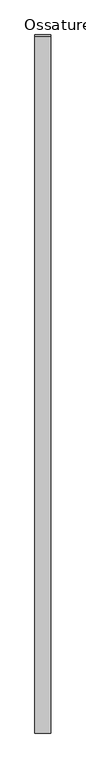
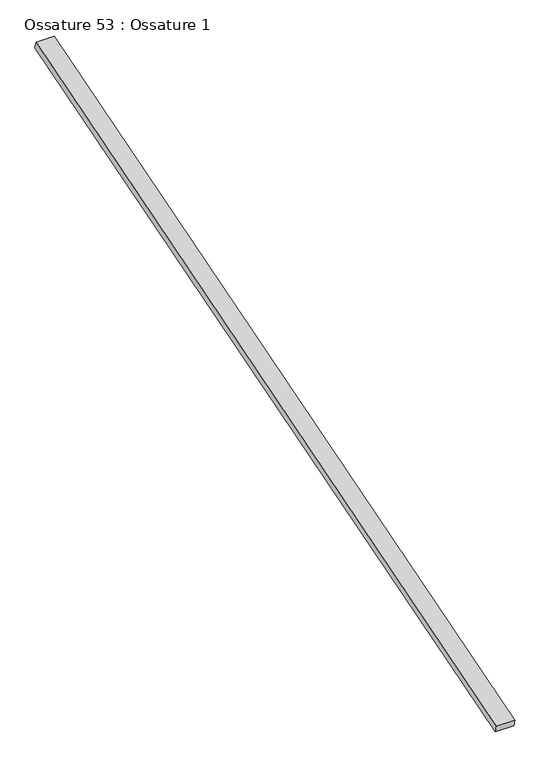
"""IFC4 building model written with IfcOpenShell, lengths in millimetres: beam geometry, Ossature 53 : Ossature 1."""

import ifcopenshell
import ifcopenshell.guid

model = None  # the IFC model being written
_history = None  # IfcOwnerHistory: only IFC2X3 demands one
_inside = {}  # id of a spatial element -> (the spatial element, [elements in it])
_under = {}  # id of a project, library or spatial element -> (it, [spatial elements below it])
_declared = {}  # id of a project -> (the project, [libraries it declares])
_typed = {}  # id of a type object -> (the type object, [elements of that type])
_made_of = {}  # id of a material, layer set ... -> (it, [elements and type objects made of it])


def new_model(schema):
    """Start an empty IFC model of exactly this schema.

    Asked for "IFC4X3", IfcOpenShell would pick the latest addendum, in which some entities
    have other attributes; the version numbers below select the first issue.
    IFC2X3 requires an IfcOwnerHistory on every rooted entity: one is made here for all.
    """
    global model, _history
    if schema == "IFC4X3":
        model = ifcopenshell.file(schema_version=(4, 3, 0, 0))
    else:
        model = ifcopenshell.file(schema=schema)
    _inside.clear()
    _under.clear()
    _declared.clear()
    _typed.clear()
    _made_of.clear()
    _history = None
    if model.schema == "IFC2X3":
        org = make("IfcOrganization", Name="unknown")
        user = make(
            "IfcPersonAndOrganization",
            ThePerson=make("IfcPerson", FamilyName="unknown"),
            TheOrganization=org,
        )
        app = make(
            "IfcApplication",
            ApplicationDeveloper=org,
            Version="unknown",
            ApplicationFullName="unknown",
            ApplicationIdentifier="unknown",
        )
        _history = make(
            "IfcOwnerHistory",
            OwningUser=user,
            OwningApplication=app,
            ChangeAction="ADDED",
            CreationDate=0,
        )
    return model


def make(cls, **values):
    """One entity of the class cls with the attributes given. An attribute that is None is left unset."""
    return model.create_entity(
        cls, **{name: value for name, value in values.items() if value is not None}
    )


def rooted(cls, **values):
    """An entity with a GlobalId (a new one), such as an element, a storey or a relation."""
    return make(cls, GlobalId=ifcopenshell.guid.new(), OwnerHistory=_history, **values)


def si_unit(unit_type, name, prefix=None):
    """IfcSIUnit, for example si_unit("LENGTHUNIT", "METRE", prefix="MILLI")."""
    return make("IfcSIUnit", UnitType=unit_type, Prefix=prefix, Name=name)


def assignment(units):
    """IfcUnitAssignment: the units of a project."""
    return None if units is None else make("IfcUnitAssignment", Units=units)


def point(xyz):
    """IfcCartesianPoint."""
    return None if xyz is None else make("IfcCartesianPoint", Coordinates=xyz)


def direction(xyz):
    """IfcDirection."""
    return None if xyz is None else make("IfcDirection", DirectionRatios=xyz)


def frame(location, z_axis=None, x_axis=None):
    """IfcAxis2Placement3D, a coordinate frame: its origin and axes. An axis left out is left unset."""
    return make(
        "IfcAxis2Placement3D",
        Location=point(location),
        Axis=direction(z_axis),
        RefDirection=direction(x_axis),
    )


def origin():
    """The frame at (0, 0, 0) with its axes left unset."""
    return frame((0.0, 0.0, 0.0))


def place(relative_to, where):
    """IfcLocalPlacement: puts the frame where relative to a parent placement (None: the world)."""
    return make(
        "IfcLocalPlacement", PlacementRelTo=relative_to, RelativePlacement=where
    )


def context(
    kind, dimensions, precision=None, world=None, true_north=None, identifier=None
):
    """IfcGeometricRepresentationContext, for example the 3D "Model" context."""
    return make(
        "IfcGeometricRepresentationContext",
        ContextIdentifier=identifier,
        ContextType=kind,
        CoordinateSpaceDimension=dimensions,
        Precision=precision,
        WorldCoordinateSystem=world,
        TrueNorth=true_north,
    )


def project(units=None, contexts=None):
    """IfcProject with its units and contexts."""
    return rooted(
        "IfcProject",
        Name="project",
        RepresentationContexts=contexts,
        UnitsInContext=assignment(units),
    )


def spatial(cls, under=None, at=None, **own):
    """A site, building, storey or space (cls), placed at a placement, below another one or the project."""
    s = rooted(cls, ObjectPlacement=at, **own)
    if under is not None:
        _under.setdefault(under.id(), (under, []))[1].append(s)
    return s


def polyline(points):
    """IfcPolyline through the points."""
    return make("IfcPolyline", Points=[point(p) for p in points])


def outline(outer, holes=None, kind="AREA"):
    """IfcArbitraryClosedProfileDef: a profile drawn as a closed curve; with holes, ...WithVoids."""
    if holes is None:
        return make("IfcArbitraryClosedProfileDef", ProfileType=kind, OuterCurve=outer)
    return make(
        "IfcArbitraryProfileDefWithVoids",
        ProfileType=kind,
        OuterCurve=outer,
        InnerCurves=holes,
    )


def extrude(swept, where, along, depth):
    """IfcExtrudedAreaSolid: the profile swept, set in the frame where, extruded along a direction by depth."""
    return make(
        "IfcExtrudedAreaSolid",
        SweptArea=swept,
        Position=where,
        ExtrudedDirection=direction(along),
        Depth=depth,
    )


def shape(context_of_items, identifier, shape_type, items):
    """IfcShapeRepresentation: the items that make up one representation, for example the "Body"."""
    return make(
        "IfcShapeRepresentation",
        ContextOfItems=context_of_items,
        RepresentationIdentifier=identifier,
        RepresentationType=shape_type,
        Items=items,
    )


def source(mapping_origin, context_of_items, identifier, shape_type, items):
    """IfcRepresentationMap: a shape defined once, which mapped items show again and again."""
    return make(
        "IfcRepresentationMap",
        MappingOrigin=mapping_origin,
        MappedRepresentation=shape(context_of_items, identifier, shape_type, items),
    )


def transform(
    local_origin,
    x_axis=None,
    y_axis=None,
    z_axis=None,
    scale=None,
    scale2=None,
    scale3=None,
    uniform=True,
):
    """IfcCartesianTransformationOperator3D, or its non-uniform kind. x_axis, y_axis, z_axis: its Axis1, 2, 3."""
    if uniform:
        return make(
            "IfcCartesianTransformationOperator3D",
            Axis1=direction(x_axis),
            Axis2=direction(y_axis),
            LocalOrigin=point(local_origin),
            Scale=scale,
            Axis3=direction(z_axis),
        )
    return make(
        "IfcCartesianTransformationOperator3DnonUniform",
        Axis1=direction(x_axis),
        Axis2=direction(y_axis),
        LocalOrigin=point(local_origin),
        Scale=scale,
        Axis3=direction(z_axis),
        Scale2=scale2,
        Scale3=scale3,
    )


def mapped(mapping_source, mapping_target):
    """IfcMappedItem: shows the shape of a source again, moved by a transform."""
    return make(
        "IfcMappedItem", MappingSource=mapping_source, MappingTarget=mapping_target
    )


def made_of(thing, what):
    """Note that an element or type object is made of a material, layer set ...; save() writes the relation."""
    if what is not None:
        _made_of.setdefault(what.id(), (what, []))[1].append(thing)
    return thing


def element(
    cls,
    number,
    at=None,
    inside=None,
    cuts=None,
    type_object=None,
    material=None,
    context=None,
    identifier="Body",
    shape_type=None,
    held_by="IfcProductDefinitionShape",
    body=None,
    shapes=None,
    **own,
):
    """One element of the class cls, such as IfcWall. Its Tag is "e" and its number.

    at: its placement. inside: the storey or other place that contains it. cuts: it is an
    opening in that element (IfcRelVoidsElement). A single representation is given by context,
    identifier, shape_type and body (its items); several are given by shapes. held_by: the class
    of the entity that holds the representations. save() writes the other relations.
    """
    e = rooted(cls, Tag="e%d" % number, ObjectPlacement=at, **own)
    if body is not None:
        shapes = [shape(context, identifier, shape_type, body)]
    if shapes is not None:
        e.Representation = make(held_by, Representations=shapes)
    if inside is not None:
        _inside.setdefault(inside.id(), (inside, []))[1].append(e)
    if cuts is not None:
        rooted(
            "IfcRelVoidsElement", RelatingBuildingElement=cuts, RelatedOpeningElement=e
        )
    if type_object is not None:
        _typed.setdefault(type_object.id(), (type_object, []))[1].append(e)
    return made_of(e, material)


def aggregate(whole, parts):
    """IfcRelAggregates: a whole, such as a stair, and the parts it consists of."""
    return rooted("IfcRelAggregates", RelatingObject=whole, RelatedObjects=parts)


def save(model, path):
    """Write the relations noted so far, then the file.

    IfcRelAggregates (storeys below a building ...), IfcRelContainedInSpatialStructure (elements
    in a storey), IfcRelDefinesByType, IfcRelAssociatesMaterial and IfcRelDeclares: one each for
    every whole, place, type object, material and project.
    """
    for whole, parts in _under.values():
        aggregate(whole, parts)
    for where, things in _inside.values():
        rooted(
            "IfcRelContainedInSpatialStructure",
            RelatedElements=things,
            RelatingStructure=where,
        )
    for kind, things in _typed.values():
        rooted("IfcRelDefinesByType", RelatedObjects=things, RelatingType=kind)
    for what, things in _made_of.values():
        rooted("IfcRelAssociatesMaterial", RelatedObjects=things, RelatingMaterial=what)
    for by, libraries in _declared.values():
        rooted("IfcRelDeclares", RelatingContext=by, RelatedDefinitions=libraries)
    model.write(path)


def ossature_53_ossature_1_392057f1(model_context):
    return source(origin(), model_context, "Body", "SweptSolid", [
        extrude(outline(polyline([(0.0, 0.0), (0.0, -4543.0299679), (-100.0, -4543.0299679), (-100.0, 0.0), (0.0, 0.0)])), frame((12919.0466393, -833.3913565, 8153.6336115), z_axis=(0.0, -0.28734788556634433, 0.9578262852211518), x_axis=(-1.0, 0.0, 0.0)), (0.0, 0.0, 1.0), 40.0),
    ])


if __name__ == "__main__":
    model = new_model("IFC4")
    model_context = context("Model", 3, world=origin())
    ifc_project = project(units=[si_unit("LENGTHUNIT", "METRE", prefix="MILLI")], contexts=[model_context])
    site = spatial("IfcSite", under=ifc_project)
    building = spatial("IfcBuilding", under=site)
    placement = place(None, origin())
    ossature_53_ossature_1_shape = ossature_53_ossature_1_392057f1(model_context)
    element("IfcBeam", 1, ObjectType="Ossature 53 : Ossature 1", at=placement, inside=building, context=model_context, shape_type="MappedRepresentation", body=[
        mapped(ossature_53_ossature_1_shape, transform((0.0, 0.0, 0.0), x_axis=(1.0, 0.0, 0.0), y_axis=(0.0, 1.0, 0.0), z_axis=(0.0, 0.0, 1.0))),
    ])
    save(model, "model.ifc")
